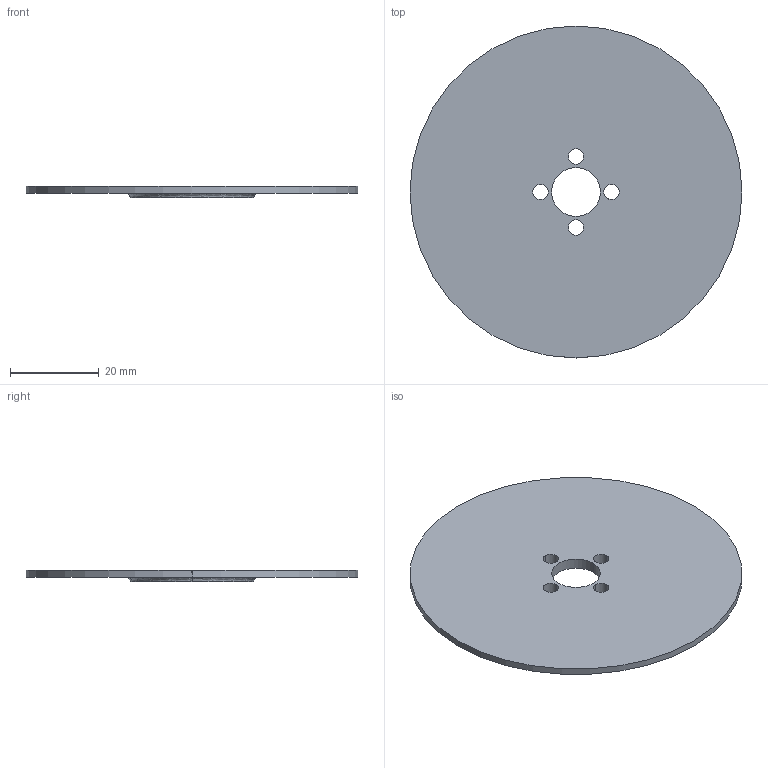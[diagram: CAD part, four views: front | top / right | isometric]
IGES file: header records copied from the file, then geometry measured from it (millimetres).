
Start section: START RECORD GO HERE.
Global section: file name: 1360.000.012.000.ARANDELA.igs; native system: DASSAULT SYSTEMES CATIA Version 5-6 Release 2018 - www.3ds.com; preprocessor: V5-6R2018_5.28.6.0.03-10-2020.20.00; author: Pc; organization: DESKTOP-CAESKE4; date: 20241108.095448; units: millimetre
Bounding box: 75 x 75 x 2.5 mm (x, y, z)
Surface area: 9169.1 mm2 (no closed solid volume)
Topology: 0 solids, 0 shells, 17 faces, 84 edges, 84 vertices
Faces by surface type: revolution 14, plane 3
